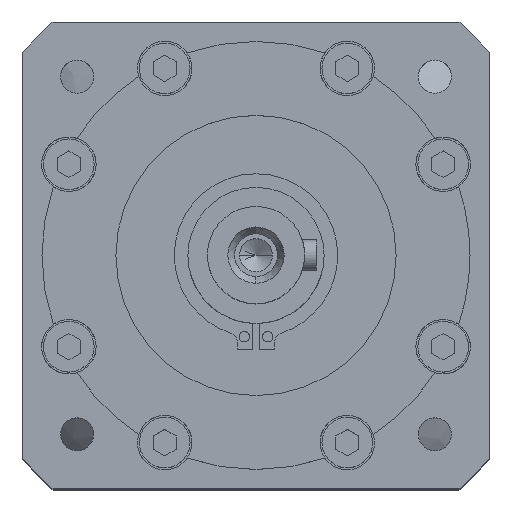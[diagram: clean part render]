
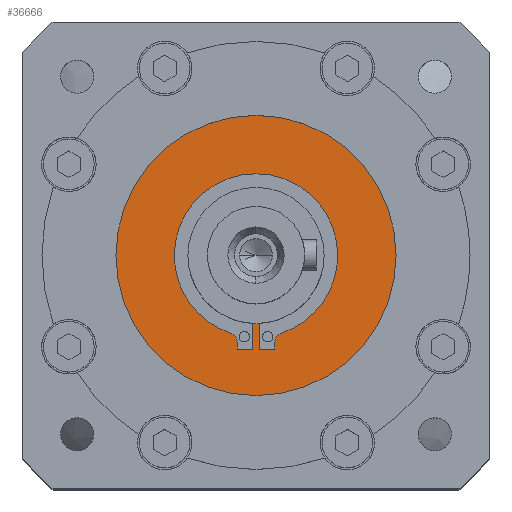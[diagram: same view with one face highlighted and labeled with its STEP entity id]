
A CAD part, top view. The second image highlights one B-rep face of the part: STEP entity #36666.
In plain terms, the highlighted planar face has unit normal (0, 0, 1).
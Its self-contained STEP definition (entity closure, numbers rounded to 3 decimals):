
#121 = CARTESIAN_POINT ( 'NONE',  ( 36., 0., -2.7 ) ) ;
#777 = CARTESIAN_POINT ( 'NONE',  ( -7.35, -22.321, -2.7 ) ) ;
#922 = AXIS2_PLACEMENT_3D ( 'NONE', #3766, #28596, #7338 ) ;
#1168 = ORIENTED_EDGE ( 'NONE', *, *, #38928, .F. ) ;
#2052 = CARTESIAN_POINT ( 'NONE',  ( -4.85, -22.321, -2.7 ) ) ;
#2566 = FACE_BOUND ( 'NONE', #40930, .T. ) ;
#2786 = LINE ( 'NONE', #14784, #19356 ) ;
#2943 = VERTEX_POINT ( 'NONE', #31928 ) ;
#3462 = AXIS2_PLACEMENT_3D ( 'NONE', #25132, #3935, #28755 ) ;
#3766 = CARTESIAN_POINT ( 'NONE',  ( 0., 0., -2.7 ) ) ;
#3935 = DIRECTION ( 'NONE',  ( 0., 0., 1. ) ) ;
#4106 = DIRECTION ( 'NONE',  ( 1., 0., 0. ) ) ;
#4219 = CARTESIAN_POINT ( 'NONE',  ( 0., 0., -2.7 ) ) ;
#4272 = DIRECTION ( 'NONE',  ( -1., 0., 0. ) ) ;
#4726 = VERTEX_POINT ( 'NONE', #41761 ) ;
#5258 = ORIENTED_EDGE ( 'NONE', *, *, #25698, .F. ) ;
#5754 = AXIS2_PLACEMENT_3D ( 'NONE', #15347, #15295, #15206 ) ;
#5877 = ORIENTED_EDGE ( 'NONE', *, *, #33504, .F. ) ;
#6389 = VECTOR ( 'NONE', #38809, 1000. ) ;
#7050 = AXIS2_PLACEMENT_3D ( 'NONE', #22062, #22015, #22008 ) ;
#7338 = DIRECTION ( 'NONE',  ( -1., 0., 0. ) ) ;
#7415 = EDGE_CURVE ( 'NONE', #37479, #25339, #17556, .T. ) ;
#7610 = DIRECTION ( 'NONE',  ( 1., 0., 0. ) ) ;
#7662 = DIRECTION ( 'NONE',  ( 0., 0., 1. ) ) ;
#7668 = CARTESIAN_POINT ( 'NONE',  ( 0., 0., -2.7 ) ) ;
#8098 = ORIENTED_EDGE ( 'NONE', *, *, #7415, .F. ) ;
#8119 = AXIS2_PLACEMENT_3D ( 'NONE', #4219, #14887, #39697 ) ;
#8130 = VECTOR ( 'NONE', #34928, 1000. ) ;
#8574 = LINE ( 'NONE', #38899, #6389 ) ;
#9036 = CARTESIAN_POINT ( 'NONE',  ( 0.85, 0., -2.7 ) ) ;
#9333 = EDGE_CURVE ( 'NONE', #12949, #29499, #8574, .T. ) ;
#9646 = CIRCLE ( 'NONE', #7050, 36. ) ;
#10041 = EDGE_CURVE ( 'NONE', #32163, #35683, #9646, .T. ) ;
#10699 = EDGE_CURVE ( 'NONE', #35683, #32163, #25103, .T. ) ;
#11373 = DIRECTION ( 'NONE',  ( 0., 0., 1. ) ) ;
#11470 = DIRECTION ( 'NONE',  ( 0., 0., 1. ) ) ;
#11914 = FACE_OUTER_BOUND ( 'NONE', #35457, .T. ) ;
#12219 = AXIS2_PLACEMENT_3D ( 'NONE', #31786, #31735, #31679 ) ;
#12235 = AXIS2_PLACEMENT_3D ( 'NONE', #777, #25476, #4272 ) ;
#12322 = LINE ( 'NONE', #14355, #30099 ) ;
#12949 = VERTEX_POINT ( 'NONE', #2052 ) ;
#13033 = CIRCLE ( 'NONE', #27818, 0.5 ) ;
#13174 = ORIENTED_EDGE ( 'NONE', *, *, #9333, .F. ) ;
#13389 = EDGE_CURVE ( 'NONE', #37601, #23470, #20580, .T. ) ;
#13659 = EDGE_CURVE ( 'NONE', #23470, #34052, #38852, .T. ) ;
#14211 = EDGE_CURVE ( 'NONE', #20531, #25359, #38814, .T. ) ;
#14355 = CARTESIAN_POINT ( 'NONE',  ( -0.85, 0., -2.7 ) ) ;
#14739 = AXIS2_PLACEMENT_3D ( 'NONE', #7668, #7662, #7610 ) ;
#14784 = CARTESIAN_POINT ( 'NONE',  ( 0., -24.279, -2.7 ) ) ;
#14887 = DIRECTION ( 'NONE',  ( 0., 0., -1. ) ) ;
#15206 = DIRECTION ( 'NONE',  ( -1., 0., 0. ) ) ;
#15295 = DIRECTION ( 'NONE',  ( 0., 0., 1. ) ) ;
#15347 = CARTESIAN_POINT ( 'NONE',  ( 0., 0., -2.7 ) ) ;
#15380 = CARTESIAN_POINT ( 'NONE',  ( -4.35, -23.779, -2.7 ) ) ;
#15807 = EDGE_CURVE ( 'NONE', #4726, #39738, #2786, .T. ) ;
#16037 = CARTESIAN_POINT ( 'NONE',  ( 4.85, -23.779, -2.7 ) ) ;
#17493 = EDGE_CURVE ( 'NONE', #2943, #4726, #28188, .T. ) ;
#17556 = LINE ( 'NONE', #35729, #8130 ) ;
#17711 = ORIENTED_EDGE ( 'NONE', *, *, #17493, .F. ) ;
#17918 = DIRECTION ( 'NONE',  ( 0., 1., 0. ) ) ;
#18950 = DIRECTION ( 'NONE',  ( -1., 0., 0. ) ) ;
#19356 = VECTOR ( 'NONE', #4106, 1000. ) ;
#19481 = VECTOR ( 'NONE', #37438, 1000. ) ;
#19708 = DIRECTION ( 'NONE',  ( 0., -1., 0. ) ) ;
#20531 = VERTEX_POINT ( 'NONE', #38557 ) ;
#20580 = LINE ( 'NONE', #38007, #19481 ) ;
#21044 = CARTESIAN_POINT ( 'NONE',  ( -36., 0., -2.7 ) ) ;
#21927 = CARTESIAN_POINT ( 'NONE',  ( 4.85, -22.321, -2.7 ) ) ;
#22008 = DIRECTION ( 'NONE',  ( 1., 0., 0. ) ) ;
#22015 = DIRECTION ( 'NONE',  ( 0., 0., 1. ) ) ;
#22062 = CARTESIAN_POINT ( 'NONE',  ( 0., 0., -2.7 ) ) ;
#22442 = CIRCLE ( 'NONE', #38335, 21. ) ;
#23470 = VERTEX_POINT ( 'NONE', #21927 ) ;
#23659 = CARTESIAN_POINT ( 'NONE',  ( -6.568, -19.946, -2.7 ) ) ;
#25103 = CIRCLE ( 'NONE', #14739, 36. ) ;
#25132 = CARTESIAN_POINT ( 'NONE',  ( 0., 0., -2.7 ) ) ;
#25232 = CARTESIAN_POINT ( 'NONE',  ( -4.85, -23.779, -2.7 ) ) ;
#25339 = VERTEX_POINT ( 'NONE', #43157 ) ;
#25359 = VERTEX_POINT ( 'NONE', #40093 ) ;
#25476 = DIRECTION ( 'NONE',  ( 0., 0., -1. ) ) ;
#25698 = EDGE_CURVE ( 'NONE', #29499, #37479, #13033, .T. ) ;
#27818 = AXIS2_PLACEMENT_3D ( 'NONE', #15380, #40198, #18950 ) ;
#28188 = LINE ( 'NONE', #9036, #37538 ) ;
#28596 = DIRECTION ( 'NONE',  ( 0., 0., 1. ) ) ;
#28738 = EDGE_CURVE ( 'NONE', #39738, #37601, #43841, .T. ) ;
#28755 = DIRECTION ( 'NONE',  ( -1., 0., 0. ) ) ;
#29499 = VERTEX_POINT ( 'NONE', #25232 ) ;
#29898 = ORIENTED_EDGE ( 'NONE', *, *, #14211, .F. ) ;
#30097 = CARTESIAN_POINT ( 'NONE',  ( 4.35, -24.279, -2.7 ) ) ;
#30099 = VECTOR ( 'NONE', #17918, 1000. ) ;
#31440 = ORIENTED_EDGE ( 'NONE', *, *, #13389, .F. ) ;
#31670 = ORIENTED_EDGE ( 'NONE', *, *, #28738, .F. ) ;
#31679 = DIRECTION ( 'NONE',  ( -1., 0., 0. ) ) ;
#31735 = DIRECTION ( 'NONE',  ( 0., 0., -1. ) ) ;
#31786 = CARTESIAN_POINT ( 'NONE',  ( 7.35, -22.321, -2.7 ) ) ;
#31928 = CARTESIAN_POINT ( 'NONE',  ( 0.85, -17.479, -2.7 ) ) ;
#31958 = CIRCLE ( 'NONE', #12235, 2.5 ) ;
#32163 = VERTEX_POINT ( 'NONE', #121 ) ;
#32649 = CARTESIAN_POINT ( 'NONE',  ( 4.35, -23.779, -2.7 ) ) ;
#32756 = CARTESIAN_POINT ( 'NONE',  ( 0., 0., -2.7 ) ) ;
#33504 = EDGE_CURVE ( 'NONE', #34052, #20531, #22442, .T. ) ;
#33791 = ORIENTED_EDGE ( 'NONE', *, *, #36078, .F. ) ;
#34052 = VERTEX_POINT ( 'NONE', #37462 ) ;
#34928 = DIRECTION ( 'NONE',  ( 1., 0., 0. ) ) ;
#35457 = EDGE_LOOP ( 'NONE', ( #40185, #44058 ) ) ;
#35683 = VERTEX_POINT ( 'NONE', #21044 ) ;
#35729 = CARTESIAN_POINT ( 'NONE',  ( 0., -24.279, -2.7 ) ) ;
#36015 = CARTESIAN_POINT ( 'NONE',  ( -4.35, -24.279, -2.7 ) ) ;
#36078 = EDGE_CURVE ( 'NONE', #37188, #12949, #31958, .T. ) ;
#36105 = PLANE ( 'NONE',  #8119 ) ;
#36181 = DIRECTION ( 'NONE',  ( -1., 0., 0. ) ) ;
#36278 = DIRECTION ( 'NONE',  ( -1., 0., 0. ) ) ;
#36409 = CARTESIAN_POINT ( 'NONE',  ( -0.85, -17.479, -2.7 ) ) ;
#36666 = ADVANCED_FACE ( 'NONE', ( #11914, #2566 ), #36105, .F. ) ;
#36730 = VERTEX_POINT ( 'NONE', #36409 ) ;
#37080 = ORIENTED_EDGE ( 'NONE', *, *, #13659, .F. ) ;
#37179 = CIRCLE ( 'NONE', #922, 21. ) ;
#37188 = VERTEX_POINT ( 'NONE', #23659 ) ;
#37438 = DIRECTION ( 'NONE',  ( 0., 1., 0. ) ) ;
#37462 = CARTESIAN_POINT ( 'NONE',  ( 6.568, -19.946, -2.7 ) ) ;
#37479 = VERTEX_POINT ( 'NONE', #36015 ) ;
#37538 = VECTOR ( 'NONE', #19708, 1000. ) ;
#37601 = VERTEX_POINT ( 'NONE', #16037 ) ;
#37961 = ORIENTED_EDGE ( 'NONE', *, *, #41207, .F. ) ;
#38007 = CARTESIAN_POINT ( 'NONE',  ( 4.85, 0., -2.7 ) ) ;
#38335 = AXIS2_PLACEMENT_3D ( 'NONE', #32756, #11470, #36278 ) ;
#38557 = CARTESIAN_POINT ( 'NONE',  ( 21., 0., -2.7 ) ) ;
#38796 = AXIS2_PLACEMENT_3D ( 'NONE', #32649, #11373, #36181 ) ;
#38809 = DIRECTION ( 'NONE',  ( 0., -1., 0. ) ) ;
#38814 = CIRCLE ( 'NONE', #5754, 21. ) ;
#38852 = CIRCLE ( 'NONE', #12219, 2.5 ) ;
#38899 = CARTESIAN_POINT ( 'NONE',  ( -4.85, 0., -2.7 ) ) ;
#38928 = EDGE_CURVE ( 'NONE', #25339, #36730, #12322, .T. ) ;
#39457 = EDGE_CURVE ( 'NONE', #36730, #2943, #43876, .T. ) ;
#39697 = DIRECTION ( 'NONE',  ( -1., 0., 0. ) ) ;
#39738 = VERTEX_POINT ( 'NONE', #30097 ) ;
#40093 = CARTESIAN_POINT ( 'NONE',  ( -21., 0., -2.7 ) ) ;
#40185 = ORIENTED_EDGE ( 'NONE', *, *, #10041, .T. ) ;
#40198 = DIRECTION ( 'NONE',  ( 0., 0., 1. ) ) ;
#40930 = EDGE_LOOP ( 'NONE', ( #5258, #13174, #33791, #37961, #29898, #5877, #37080, #31440, #31670, #42240, #17711, #44318, #1168, #8098 ) ) ;
#41207 = EDGE_CURVE ( 'NONE', #25359, #37188, #37179, .T. ) ;
#41761 = CARTESIAN_POINT ( 'NONE',  ( 0.85, -24.279, -2.7 ) ) ;
#42240 = ORIENTED_EDGE ( 'NONE', *, *, #15807, .F. ) ;
#43157 = CARTESIAN_POINT ( 'NONE',  ( -0.85, -24.279, -2.7 ) ) ;
#43841 = CIRCLE ( 'NONE', #38796, 0.5 ) ;
#43876 = CIRCLE ( 'NONE', #3462, 17.5 ) ;
#44058 = ORIENTED_EDGE ( 'NONE', *, *, #10699, .T. ) ;
#44318 = ORIENTED_EDGE ( 'NONE', *, *, #39457, .F. ) ;
